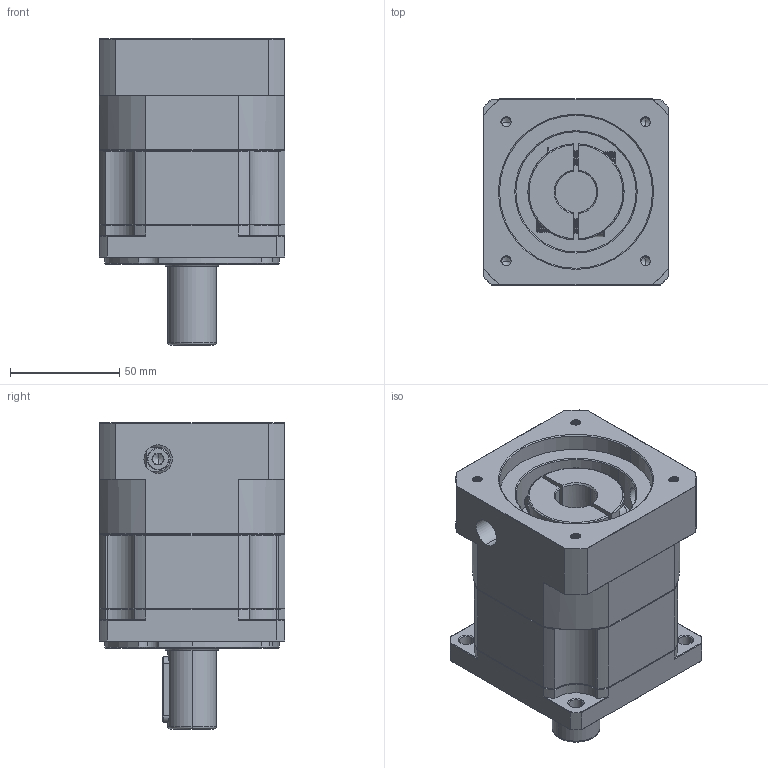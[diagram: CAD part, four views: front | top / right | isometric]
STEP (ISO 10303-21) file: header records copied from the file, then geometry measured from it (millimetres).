
FILE_DESCRIPTION (( 'STEP AP214' ), '1' );
FILE_NAME ('ZB090-D22-L1-P2-19-70-90-M5.step', '2023-08-18T12:12:55', ( '' ), ( '' ), 'SwSTEP 2.0', 'SolidWorks 2016', '' );
FILE_SCHEMA (( 'AUTOMOTIVE_DESIGN' ));
Length unit declared in the file: millimetre
Products named in the file (1): ZB090-D22-L1-P2-19-70-90-M5
Bounding box: 85 x 85 x 140 mm (x, y, z)
Volume: 610738 mm3; surface area: 84604 mm2
Topology: 4 solids, 4 shells, 2189 faces, 5845 edges, 3738 vertices
Faces by surface type: plane 1056, bspline 412, cylinder 390, cone 319, torus 12
Entity records: 119898 total; most frequent: CARTESIAN_POINT 44733, ORIENTED_EDGE 11646, DIRECTION 9008, EDGE_CURVE 5823, VERTEX_POINT 3738, VECTOR 3706, LINE 3706, AXIS2_PLACEMENT_3D 2651
